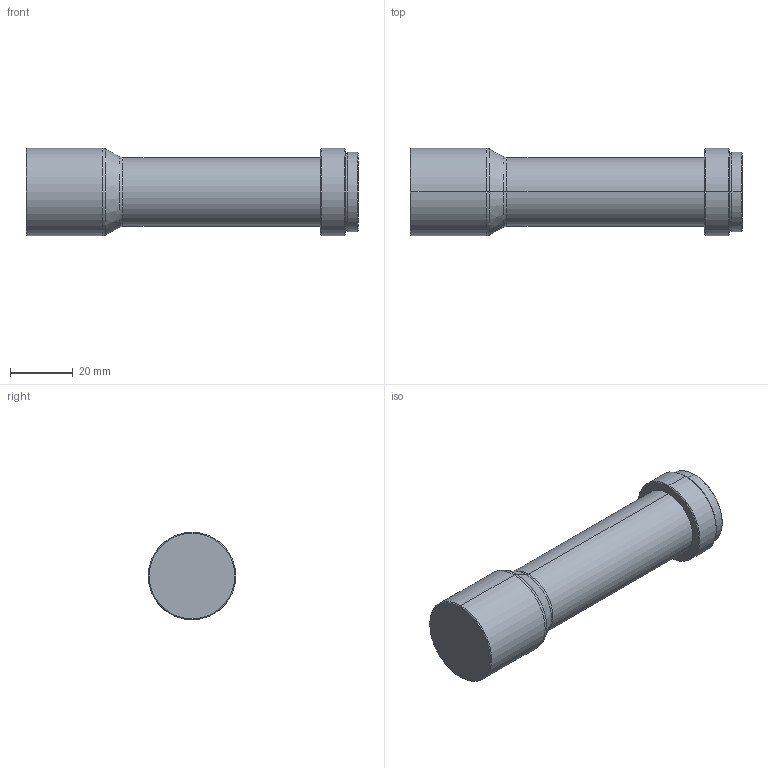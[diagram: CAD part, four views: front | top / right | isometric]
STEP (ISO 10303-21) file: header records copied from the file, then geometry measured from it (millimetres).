
FILE_DESCRIPTION (( 'STEP AP203' ), '1' );
FILE_NAME ('WWH06-150AT.STEP', '2020-10-09T02:00:58', ( 'Windows User' ), ( 'P R C' ), 'SwSTEP 2.0', 'SolidWorks 2017', '' );
FILE_SCHEMA (( 'CONFIG_CONTROL_DESIGN' ));
Length unit declared in the file: millimetre
Products named in the file (1): WWH06-150AT
Bounding box: 106.2 x 28 x 28 mm (x, y, z)
Volume: 49226.8 mm3; surface area: 9595.3 mm2
Topology: 1 solids, 1 shells, 29 faces, 56 edges, 32 vertices
Faces by surface type: cone 10, cylinder 10, plane 5, torus 4
Entity records: 815 total; most frequent: DIRECTION 152, CARTESIAN_POINT 118, ORIENTED_EDGE 112, AXIS2_PLACEMENT_3D 66, EDGE_CURVE 56, CIRCLE 36, VERTEX_POINT 32, EDGE_LOOP 32
